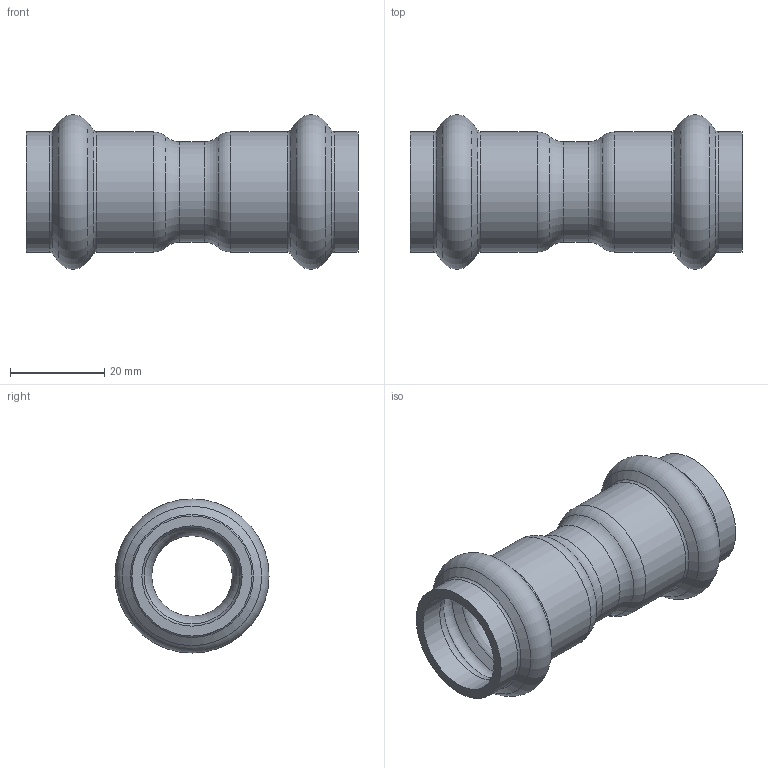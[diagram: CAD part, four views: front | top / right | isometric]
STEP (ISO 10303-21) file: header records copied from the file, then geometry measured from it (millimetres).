
FILE_DESCRIPTION(/* description */ ('VIC COUPLING STYLE P507 STD P X P','CAx-IF Rec.Pracs.---Representation and Presentation of Product Manufacturing Information (PMI)---4.0---2014-10-13'),/* implementation_level */ '2;1');
FILE_NAME(/* name */ 'C:\Users\kkamble\AppData\Roaming\Autodesk\ApplicationPlugins\Back Up\Victaulic_SS-Vic-Press-TP 316_Coupling Standard_Style P507 (VP)\Victaulic_SS-Vic-Press-TP 316_Coupling Standard_Style P507 (VP)_0.5 (15).stp',/* time_stamp */ '2020-08-14T11:54:41+05:00',/* author */ ('cgray'),/* organization */ ('Victaulic'),/* preprocessor_version */ 'ST-DEVELOPER v17.2',/* originating_system */ 'Autodesk Inventor 2019',/* authorisation */ '');
FILE_SCHEMA (('AP242_MANAGED_MODEL_BASED_3D_ENGINEERING_MIM_LF { 1 0 10303 442 1 1 4 }'));
Length unit declared in the file: inch
Products named in the file (1): P507-0.5
Bounding box: 70.61 x 32.79 x 32.79 mm (x, y, z)
Volume: 12377.8 mm3; surface area: 12053.1 mm2
Topology: 1 solids, 1 shells, 40 faces, 150 edges, 112 vertices
Faces by surface type: torus 20, cylinder 10, cone 8, plane 2
Full cylindrical faces by diameter (mm): 17.12 x1, 21.336 x5, 25.552 x4
Entity records: 1910 total; most frequent: DIRECTION 390, CARTESIAN_POINT 320, ORIENTED_EDGE 300, AXIS2_PLACEMENT_3D 186, EDGE_CURVE 150, CIRCLE 132, VERTEX_POINT 112, EDGE_LOOP 42
